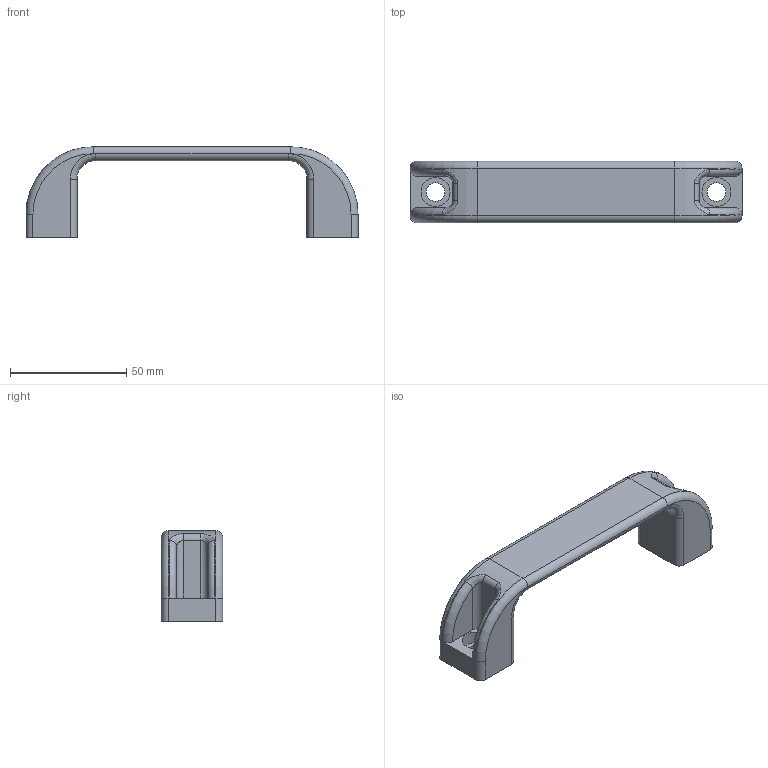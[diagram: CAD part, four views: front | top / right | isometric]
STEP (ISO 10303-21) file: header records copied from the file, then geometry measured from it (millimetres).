
FILE_DESCRIPTION( ('This file contains a STEP AP42 implementation' ,'as created by ZW3D STEP Interface translator.') ,'2;1' );
FILE_NAME( 'Uchwyt przemyslowy przelotowy.stp' ,'26 423.11 538', (''), ('ZWCAD Software Co.'), 'Version 1.0', 'ZW3D to STEP translator', '' );
FILE_SCHEMA(('AP242_MANAGED_MODEL_BASED_3D_ENGINEERING_MIM_LF { 1 0 10303 442 1 1 4 }'));
Length unit declared in the file: millimetre
Products named in the file (1): 0
Bounding box: 143 x 26.5 x 39 mm (x, y, z)
Volume: 38444.6 mm3; surface area: 16366.7 mm2
Topology: 1 solids, 1 shells, 80 faces, 172 edges, 104 vertices
Faces by surface type: cylinder 34, plane 30, torus 12, bspline 4
Full cylindrical faces by diameter (mm): 4 x8, 8 x2, 12.5 x2
Entity records: 3331 total; most frequent: CARTESIAN_POINT 1452, DIRECTION 398, ORIENTED_EDGE 344, EDGE_CURVE 172, AXIS2_PLACEMENT_3D 161, VERTEX_POINT 104, EDGE_LOOP 94, CIRCLE 84
